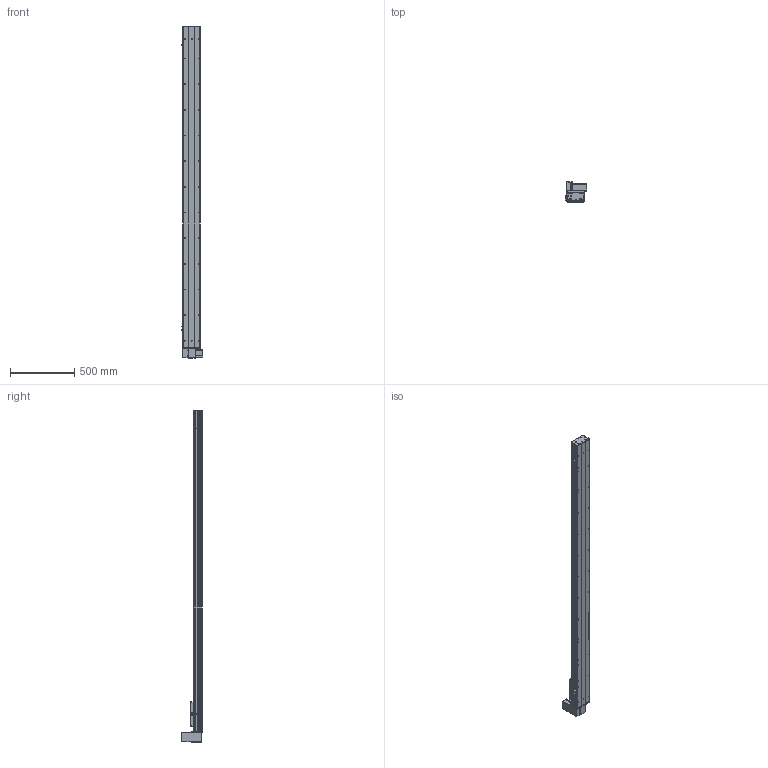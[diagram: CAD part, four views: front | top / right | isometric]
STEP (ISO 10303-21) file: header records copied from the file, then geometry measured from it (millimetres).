
FILE_DESCRIPTION (( 'STEP AP203' ), '1' );
FILE_NAME ('Y135CB-D90-S2200-UR-P400W.STEP', '2020-02-18T06:29:15', ( '微软用户' ), ( '微软中国' ), 'SwSTEP 2.0', 'SolidWorks 2017', '' );
FILE_SCHEMA (( 'CONFIG_CONTROL_DESIGN' ));
Length unit declared in the file: millimetre
Products named in the file (18): Y135C-陔俋离換覜結え-; san松下电机400不带刹车----; 5C--俋欶; 5CB --掛极耜裔啣-; C-雄赽釱--; C-詩湍揤踡え-陔; Y135CB-耜裔; Y10B--々湍喘謫眊--666; 135CB--詩湍-CE; 135CB---遴掛极.-; Y10B-耜蚾蟀諉啣----; 35CB---喘謫眊楊擘啣; 00B-俋欶BM--; 0B-埴倛裔啣; Y135CB-D90-S2200-UR-P400W; 0B-源倛裔啣; Y100-135俋离換覜ん--; 0B-萇儂楊擘啣
Assembly tree (21 placements, depth 2):
  Y135CB-D90-S2200-UR-P400W
    Y135CB-耜裔
    135CB---遴掛极.-
    35CB---喘謫眊楊擘啣
    0B-埴倛裔啣
    0B-源倛裔啣
    0B-萇儂楊擘啣
    san松下电机400不带刹车----
    5CB --掛极耜裔啣-  x2
    C-詩湍揤踡え-陔  x2
    135CB--詩湍-CE
    Y100-135俋离換覜ん--  x3
    Y135C-陔俋离換覜結え-
    5C--俋欶
    C-雄赽釱--
    Y10B--々湍喘謫眊--666
    Y10B-耜蚾蟀諉啣----
    00B-俋欶BM--
Bounding box: 167.5 x 158.7 x 2588 mm (x, y, z)
Volume: 7502746.2 mm3; surface area: 2967246.7 mm2
Topology: 21 solids, 21 shells, 969 faces, 2635 edges, 1746 vertices
Faces by surface type: cylinder 497, plane 456, cone 16
Entity records: 30561 total; most frequent: DIRECTION 5079, CARTESIAN_POINT 5076, ORIENTED_EDGE 4746, EDGE_CURVE 2373, AXIS2_PLACEMENT_3D 1861, VERTEX_POINT 1574, VECTOR 1357, LINE 1357
